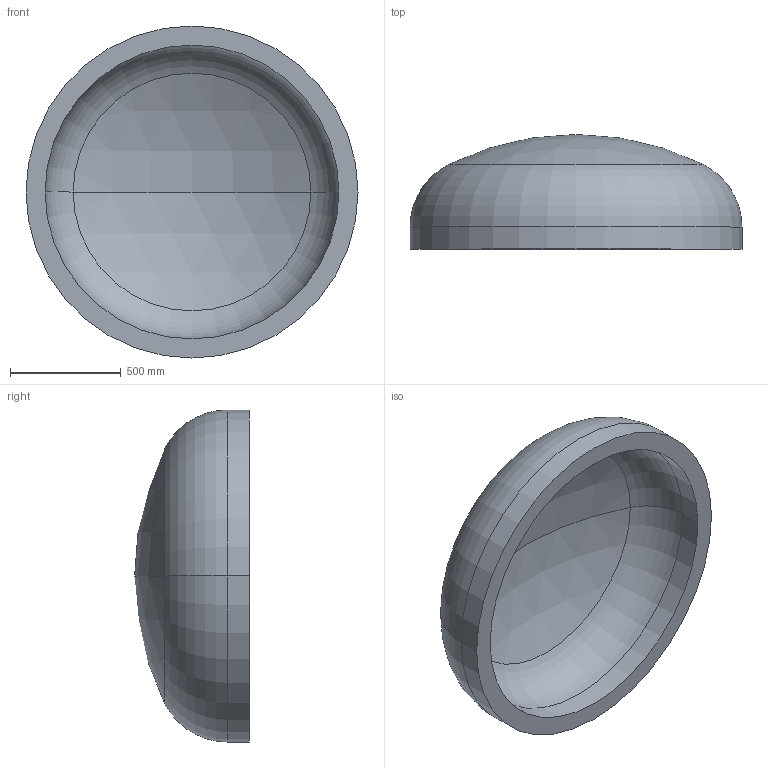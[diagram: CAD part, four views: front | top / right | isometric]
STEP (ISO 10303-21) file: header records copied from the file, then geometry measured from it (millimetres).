
FILE_DESCRIPTION (( 'STEP AP203' ), '1' );
FILE_NAME ('DIN 28013 Korbbogenform_-_Boden DIN 28013 - 1500 x 100 - I - s=86.step', '2016-07-01T10:55:35', ( '' ), ( '' ), 'SwSTEP 2.0', 'SolidWorks 2013', '' );
FILE_SCHEMA (( 'CONFIG_CONTROL_DESIGN' ));
Length unit declared in the file: millimetre
Products named in the file (1): DIN 28013 Korbbogenform_-_Boden DIN 28013 - 1500 x 100 - I - s=86
Bounding box: 1500 x 518.51 x 1500 mm (x, y, z)
Volume: 233646561.6 mm3; surface area: 5831160 mm2
Topology: 1 solids, 1 shells, 13 faces, 24 edges, 14 vertices
Faces by surface type: torus 4, cylinder 4, sphere 4, plane 1
Entity records: 407 total; most frequent: DIRECTION 72, CARTESIAN_POINT 52, ORIENTED_EDGE 48, AXIS2_PLACEMENT_3D 34, EDGE_CURVE 24, CIRCLE 20, VERTEX_POINT 14, EDGE_LOOP 14
